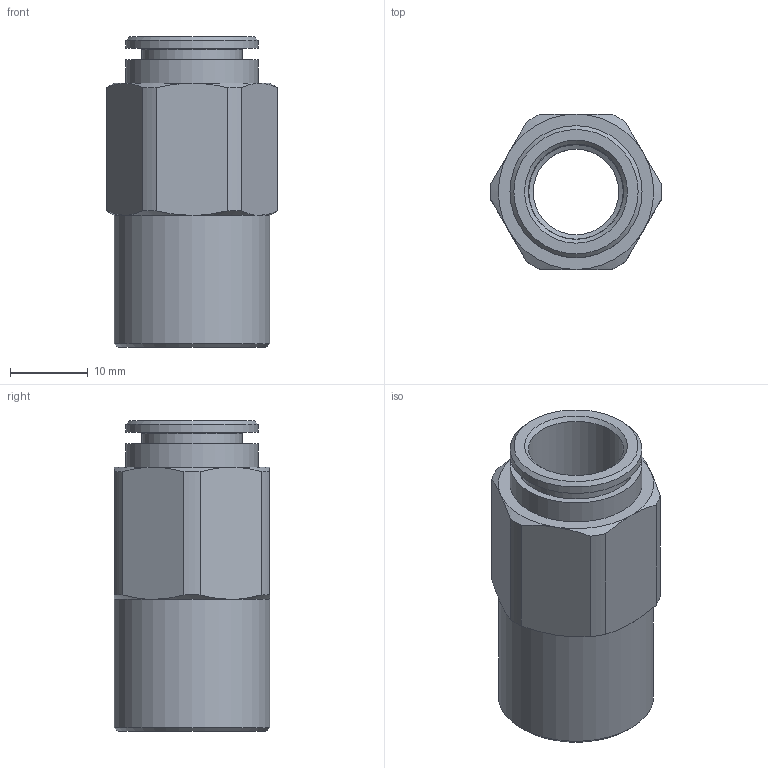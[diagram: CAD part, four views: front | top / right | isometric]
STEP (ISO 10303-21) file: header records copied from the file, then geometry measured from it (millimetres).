
FILE_DESCRIPTION(/* description */ (''),/* implementation_level */ '2;1');
FILE_NAME(/* name */ 'V200211_IPSO_02_12_14_08.02.2017',/* time_stamp */ '2017-02-08T10:35:51+01:00',/* author */ (''),/* organization */ (''),/* preprocessor_version */ 'ST-DEVELOPER v16.5',/* originating_system */ 'HiCAD 2016 2102.0 Build 402',/* authorisation */ '');
FILE_SCHEMA (('AUTOMOTIVE_DESIGN { 1 0 10303 214 1 1 1 1 }'));
Length unit declared in the file: millimetre
Products named in the file (3): Root; DR12-5; R200211
Assembly tree (2 placements, depth 2):
  Root
    DR12-5
    R200211
Bounding box: 21.99 x 20 x 40 mm (x, y, z)
Volume: 7525.2 mm3; surface area: 5431.3 mm2
Topology: 2 solids, 2 shells, 49 faces, 103 edges, 62 vertices
Faces by surface type: cone 19, cylinder 15, plane 14, torus 1
Full cylindrical faces by diameter (mm): 11 x1, 11.445 x1, 12.15 x1, 12.25 x1, 12.9 x1, 14.5 x1, 17 x2, 20 x1
Entity records: 2133 total; most frequent: DIRECTION 262, CARTESIAN_POINT 197, PRESENTATION_STYLE_ASSIGNMENT 170, COLOUR_RGB 169, DRAUGHTING_PRE_DEFINED_CURVE_FONT 168, CURVE_STYLE 168, OVER_RIDING_STYLED_ITEM 168, ORIENTED_EDGE 168
